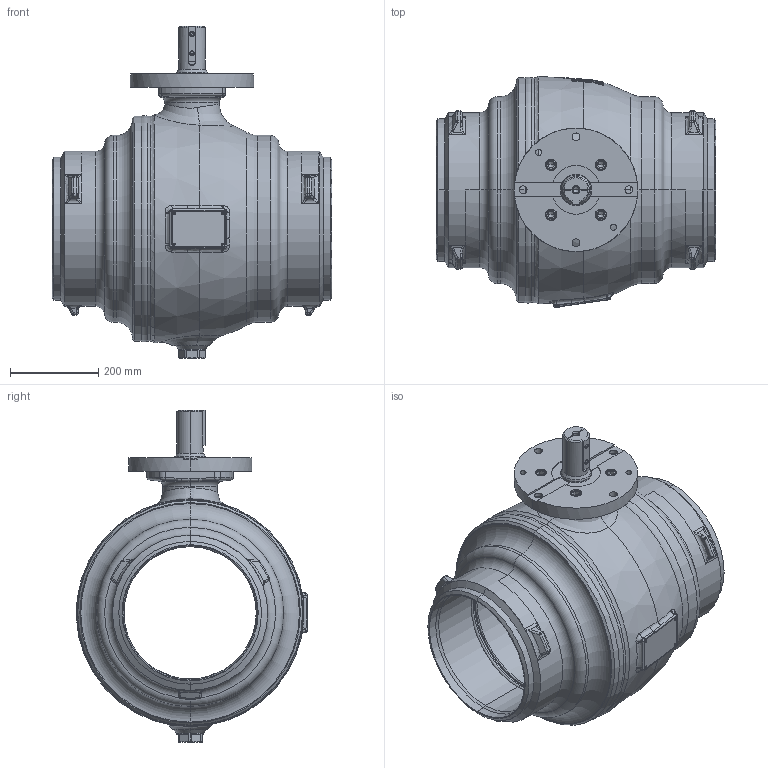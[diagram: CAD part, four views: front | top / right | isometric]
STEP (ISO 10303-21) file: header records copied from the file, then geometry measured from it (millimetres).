
FILE_DESCRIPTION((''),'2;1');
FILE_NAME('KHSVI_300_VVS_FR_WE','2026-01-27T14:11:57',('schwaba'),('KLINGER'),'CREO PARAMETRIC BY PTC INC, 2023014','CREO PARAMETRIC BY PTC INC, 2023014','');
FILE_SCHEMA(('CONFIG_CONTROL_DESIGN'));
Products named in the file (1): KHSVI_300_VVS_FR_WE
Bounding box: 635 x 524.44 x 753 mm (x, y, z)
Volume: 33493549.2 mm3; surface area: 3711956.8 mm2
Topology: 10 solids, 10 shells, 1446 faces, 3606 edges, 2223 vertices
Faces by surface type: plane 688, cylinder 274, cone 152, torus 151, bspline 126, sphere 55
Entity records: 94268 total; most frequent: CARTESIAN_POINT 60458, ORIENTED_EDGE 7160, DIRECTION 7149, EDGE_CURVE 3580, AXIS2_PLACEMENT_3D 3003, VERTEX_POINT 2223, CIRCLE 1683, EDGE_LOOP 1571
